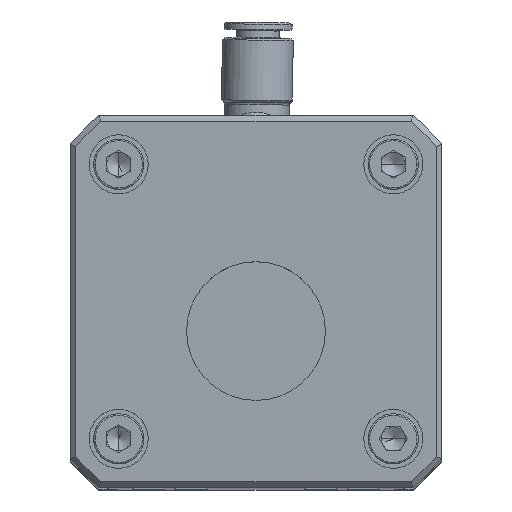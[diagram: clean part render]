
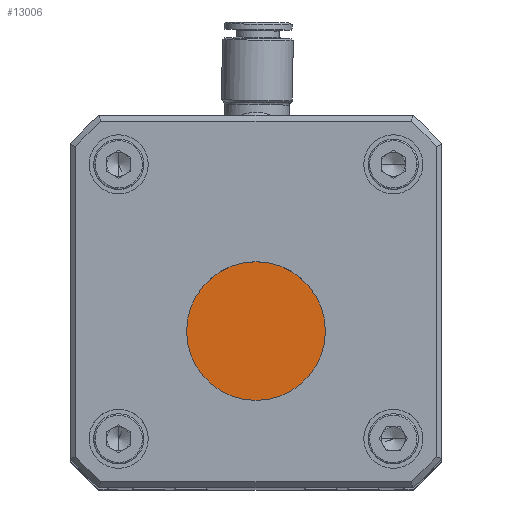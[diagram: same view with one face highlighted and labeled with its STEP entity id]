
A CAD part, top view. The second image highlights one B-rep face of the part: STEP entity #13006.
In plain terms, the highlighted planar face has unit normal (0, 0, 1).
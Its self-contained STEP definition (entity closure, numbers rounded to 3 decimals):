
#4501 = VERTEX_POINT ( 'NONE', #16490 ) ;
#4975 = DIRECTION ( 'NONE',  ( 1., 0., 0. ) ) ;
#8479 = DIRECTION ( 'NONE',  ( 1., 0., 0. ) ) ;
#8512 = CARTESIAN_POINT ( 'NONE',  ( 11.75, -118., 140. ) ) ;
#12474 = AXIS2_PLACEMENT_3D ( 'NONE', #27654, #14183, #4975 ) ;
#12814 = ORIENTED_EDGE ( 'NONE', *, *, #22653, .T. ) ;
#12842 = EDGE_LOOP ( 'NONE', ( #25889, #12814 ) ) ;
#13006 = ADVANCED_FACE ( 'NONE', ( #13155 ), #25437, .T. ) ;
#13155 = FACE_OUTER_BOUND ( 'NONE', #12842, .T. ) ;
#14183 = DIRECTION ( 'NONE',  ( 0., 0., 1. ) ) ;
#14999 = DIRECTION ( 'NONE',  ( 1., 0., 0. ) ) ;
#15596 = AXIS2_PLACEMENT_3D ( 'NONE', #28485, #19148, #14999 ) ;
#16490 = CARTESIAN_POINT ( 'NONE',  ( -11.75, -118., 140. ) ) ;
#17435 = EDGE_CURVE ( 'NONE', #24498, #4501, #27293, .T. ) ;
#19148 = DIRECTION ( 'NONE',  ( 0., 0., 1. ) ) ;
#20740 = AXIS2_PLACEMENT_3D ( 'NONE', #22303, #28518, #8479 ) ;
#22303 = CARTESIAN_POINT ( 'NONE',  ( 0., -118., 140. ) ) ;
#22653 = EDGE_CURVE ( 'NONE', #4501, #24498, #23846, .T. ) ;
#23846 = CIRCLE ( 'NONE', #20740, 11.75 ) ;
#24498 = VERTEX_POINT ( 'NONE', #8512 ) ;
#25437 = PLANE ( 'NONE',  #12474 ) ;
#25889 = ORIENTED_EDGE ( 'NONE', *, *, #17435, .T. ) ;
#27293 = CIRCLE ( 'NONE', #15596, 11.75 ) ;
#27654 = CARTESIAN_POINT ( 'NONE',  ( -30.4, -99.2, 140. ) ) ;
#28485 = CARTESIAN_POINT ( 'NONE',  ( 0., -118., 140. ) ) ;
#28518 = DIRECTION ( 'NONE',  ( 0., 0., 1. ) ) ;
